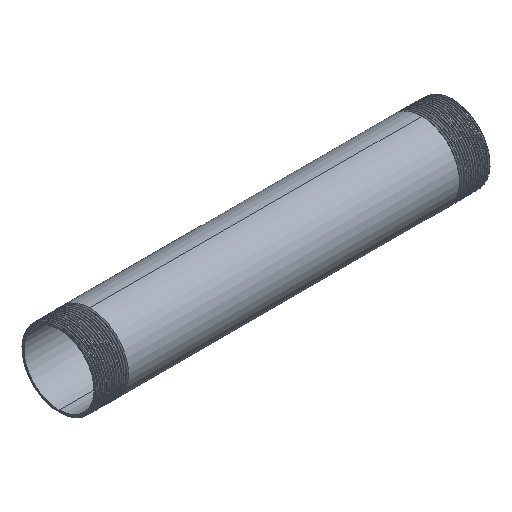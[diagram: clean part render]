
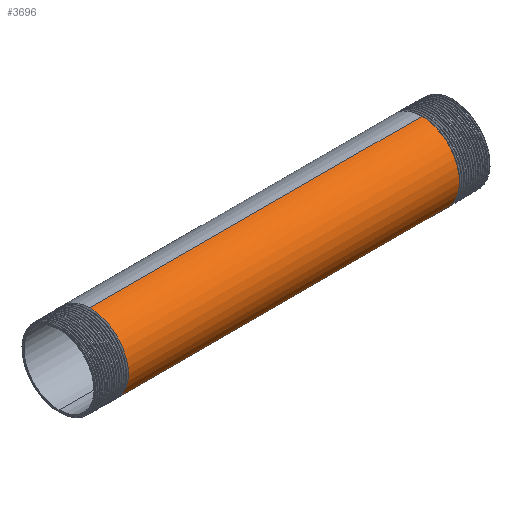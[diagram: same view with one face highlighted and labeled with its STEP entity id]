
A CAD part, isometric view. The second image highlights one B-rep face of the part: STEP entity #3696.
In plain terms, the highlighted cylindrical face has radius 24.15 mm (diameter 48.3 mm), a partial arc.
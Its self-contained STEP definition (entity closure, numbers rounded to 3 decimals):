
#498 = VECTOR ( 'NONE', #4803, 1000. ) ;
#530 = CARTESIAN_POINT ( 'NONE',  ( -104.688, 0., -24.15 ) ) ;
#890 = VECTOR ( 'NONE', #3662, 1000. ) ;
#1219 = ORIENTED_EDGE ( 'NONE', *, *, #3593, .T. ) ;
#1776 = CARTESIAN_POINT ( 'NONE',  ( -104.781, -10.003, -24.15 ) ) ;
#2509 = CARTESIAN_POINT ( 'NONE',  ( -105.156, -24.15, 10.003 ) ) ;
#2620 = EDGE_CURVE ( 'NONE', #3618, #5291, #3722, .T. ) ;
#2631 = CARTESIAN_POINT ( 'NONE',  ( -105.063, -24.15, 0. ) ) ;
#2763 = CARTESIAN_POINT ( 'NONE',  ( 104.688, 0., -24.15 ) ) ;
#2823 = CARTESIAN_POINT ( 'NONE',  ( -149.494, 0., 0. ) ) ;
#3314 = EDGE_LOOP ( 'NONE', ( #3912, #5893, #1219, #3695 ) ) ;
#3577 =( BOUNDED_CURVE ( )  B_SPLINE_CURVE ( 2, ( #11061, #1776, #10942, #6464, #2631, #2509, #5477, #9242, #3623 ),
 .UNSPECIFIED., .F., .T. ) 
 B_SPLINE_CURVE_WITH_KNOTS ( ( 3, 2, 2, 2, 3 ),
 ( 0., 0.008, 0.016, 0.023, 0.031 ),
 .UNSPECIFIED. ) 
 CURVE ( )  GEOMETRIC_REPRESENTATION_ITEM ( )  RATIONAL_B_SPLINE_CURVE ( ( 1., 0.924, 1., 0.924, 1., 0.924, 1., 0.924, 1. ) ) 
 REPRESENTATION_ITEM ( '' )  );
#3593 = EDGE_CURVE ( 'NONE', #11223, #6579, #5667, .T. ) ;
#3618 = VERTEX_POINT ( 'NONE', #2763 ) ;
#3623 = CARTESIAN_POINT ( 'NONE',  ( -105.438, 0., 24.15 ) ) ;
#3662 = DIRECTION ( 'NONE',  ( -1., 0., 0. ) ) ;
#3695 = ORIENTED_EDGE ( 'NONE', *, *, #7010, .F. ) ;
#3696 = ADVANCED_FACE ( 'NONE', ( #5546 ), #6531, .T. ) ;
#3722 = LINE ( 'NONE', #5579, #890 ) ;
#3912 = ORIENTED_EDGE ( 'NONE', *, *, #2620, .F. ) ;
#4074 = CARTESIAN_POINT ( 'NONE',  ( 104.969, -24.15, -10.003 ) ) ;
#4803 = DIRECTION ( 'NONE',  ( -1., 0., 0. ) ) ;
#4951 = CARTESIAN_POINT ( 'NONE',  ( 104.875, -17.077, -17.077 ) ) ;
#5191 = CARTESIAN_POINT ( 'NONE',  ( 105.438, 0., 24.15 ) ) ;
#5195 = CARTESIAN_POINT ( 'NONE',  ( 105.156, -24.15, 10.003 ) ) ;
#5291 = VERTEX_POINT ( 'NONE', #530 ) ;
#5477 = CARTESIAN_POINT ( 'NONE',  ( -105.25, -17.077, 17.077 ) ) ;
#5546 = FACE_OUTER_BOUND ( 'NONE', #3314, .T. ) ;
#5579 = CARTESIAN_POINT ( 'NONE',  ( -149.494, 0., -24.15 ) ) ;
#5605 = EDGE_CURVE ( 'NONE', #3618, #11223, #10186, .T. ) ;
#5667 = LINE ( 'NONE', #7584, #498 ) ;
#5893 = ORIENTED_EDGE ( 'NONE', *, *, #5605, .T. ) ;
#5999 = CARTESIAN_POINT ( 'NONE',  ( 105.438, 0., 24.15 ) ) ;
#6097 = CARTESIAN_POINT ( 'NONE',  ( -105.438, 0., 24.15 ) ) ;
#6464 = CARTESIAN_POINT ( 'NONE',  ( -104.969, -24.15, -10.003 ) ) ;
#6531 = CYLINDRICAL_SURFACE ( 'NONE', #8973, 24.15 ) ;
#6579 = VERTEX_POINT ( 'NONE', #6097 ) ;
#7010 = EDGE_CURVE ( 'NONE', #5291, #6579, #3577, .T. ) ;
#7584 = CARTESIAN_POINT ( 'NONE',  ( -149.494, 0., 24.15 ) ) ;
#8898 = CARTESIAN_POINT ( 'NONE',  ( 105.25, -17.077, 17.077 ) ) ;
#8973 = AXIS2_PLACEMENT_3D ( 'NONE', #2823, #9303, #12118 ) ;
#9242 = CARTESIAN_POINT ( 'NONE',  ( -105.344, -10.003, 24.15 ) ) ;
#9303 = DIRECTION ( 'NONE',  ( -1., 0., 0. ) ) ;
#9878 = CARTESIAN_POINT ( 'NONE',  ( 104.781, -10.003, -24.15 ) ) ;
#10186 =( BOUNDED_CURVE ( )  B_SPLINE_CURVE ( 2, ( #11461, #9878, #4951, #4074, #11521, #5195, #8898, #11646, #5999 ),
 .UNSPECIFIED., .F., .T. ) 
 B_SPLINE_CURVE_WITH_KNOTS ( ( 3, 2, 2, 2, 3 ),
 ( 0., 0.008, 0.016, 0.023, 0.031 ),
 .UNSPECIFIED. ) 
 CURVE ( )  GEOMETRIC_REPRESENTATION_ITEM ( )  RATIONAL_B_SPLINE_CURVE ( ( 1., 0.924, 1., 0.924, 1., 0.924, 1., 0.924, 1. ) ) 
 REPRESENTATION_ITEM ( '' )  );
#10942 = CARTESIAN_POINT ( 'NONE',  ( -104.875, -17.077, -17.077 ) ) ;
#11061 = CARTESIAN_POINT ( 'NONE',  ( -104.688, 0., -24.15 ) ) ;
#11223 = VERTEX_POINT ( 'NONE', #5191 ) ;
#11461 = CARTESIAN_POINT ( 'NONE',  ( 104.688, 0., -24.15 ) ) ;
#11521 = CARTESIAN_POINT ( 'NONE',  ( 105.063, -24.15, 0. ) ) ;
#11646 = CARTESIAN_POINT ( 'NONE',  ( 105.344, -10.003, 24.15 ) ) ;
#12118 = DIRECTION ( 'NONE',  ( 0., 0., 1. ) ) ;
